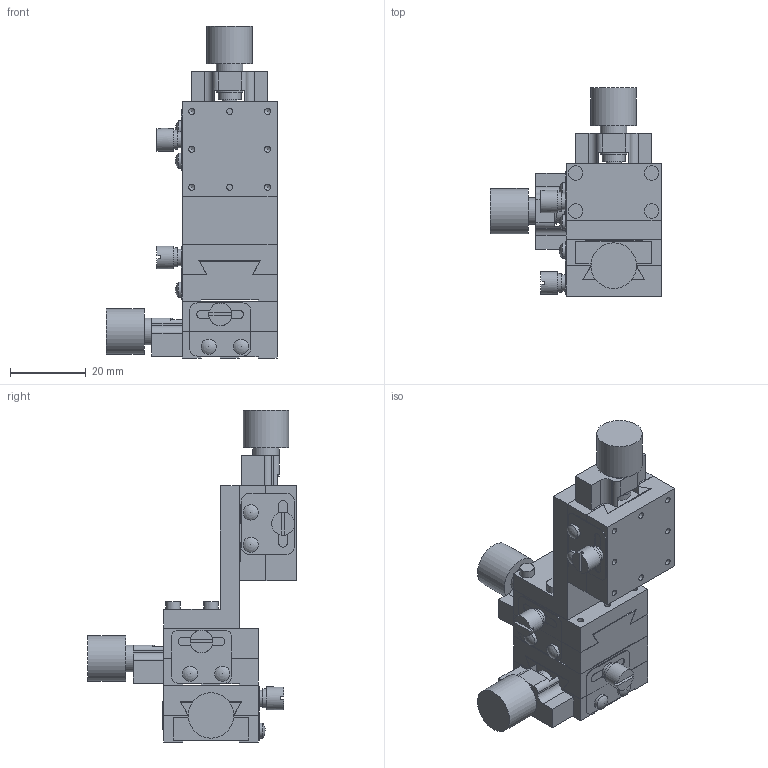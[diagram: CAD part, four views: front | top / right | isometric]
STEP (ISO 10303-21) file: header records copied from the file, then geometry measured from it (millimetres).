
FILE_DESCRIPTION( ( 'STEP AP203' ), '1' );
FILE_NAME( 'C:/3D-Trans/3D_B08-7+090717.step', '2009-07-17T04:46:57', ( ' ' ), ( ' ' ), 'XStep 1.0', ' ', ' ' );
FILE_SCHEMA( ( 'CONFIG_CONTROL_DESIGN' ) );
Length unit declared in the file: millimetre
Products named in the file (7): 1; 2; 3; 4; 5; 6; 7
Bounding box: 45.15 x 55 x 87.5 mm (x, y, z)
Volume: 37588.8 mm3; surface area: 26428.4 mm2
Topology: 7 solids, 13 shells, 544 faces, 1413 edges, 940 vertices
Faces by surface type: plane 317, cylinder 193, cone 28, sphere 6
Full cylindrical faces by diameter (mm): 1.6 x54, 2 x11, 2.2 x3, 2.5 x16, 3 x12, 3.2 x6, 3.8 x4, 4 x9, 4.2 x12, 4.3 x3, 4.5 x6, 5 x3, 6 x6, 7 x9, 12 x3
Entity records: 15830 total; most frequent: CARTESIAN_POINT 3197, DIRECTION 2556, ORIENTED_EDGE 2200, EDGE_CURVE 1100, AXIS2_PLACEMENT_3D 921, EDGE_LOOP 870, VERTEX_POINT 842, LINE 714
